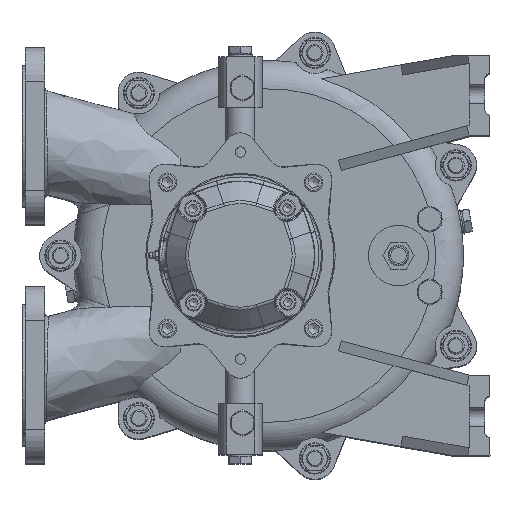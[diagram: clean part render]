
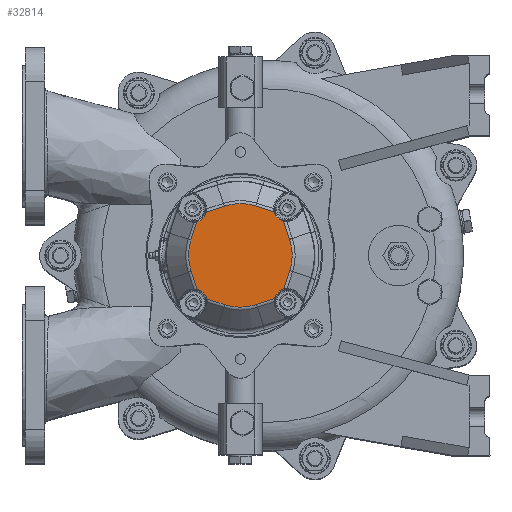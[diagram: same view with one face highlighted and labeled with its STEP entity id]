
A CAD part, top view. The second image highlights one B-rep face of the part: STEP entity #32814.
In plain terms, the highlighted planar face has unit normal (0, 0, 1).
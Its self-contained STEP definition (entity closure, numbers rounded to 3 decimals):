
#1115=PLANE('',#35854);
#2865=LINE('',#65464,#4766);
#2874=LINE('',#65503,#4775);
#2875=LINE('',#65515,#4776);
#2881=LINE('',#65544,#4782);
#2913=LINE('',#65654,#4814);
#2914=LINE('',#65656,#4815);
#2915=LINE('',#65659,#4816);
#2916=LINE('',#65662,#4817);
#4766=VECTOR('',#43046,10.);
#4775=VECTOR('',#43081,10.);
#4776=VECTOR('',#43092,10.);
#4782=VECTOR('',#43118,10.);
#4814=VECTOR('',#43198,10.);
#4815=VECTOR('',#43199,10.);
#4816=VECTOR('',#43202,10.);
#4817=VECTOR('',#43207,10.);
#7065=FACE_OUTER_BOUND('',#9059,.T.);
#9059=EDGE_LOOP('',(#27008,#27009,#27010,#27011,#27012,#27013,#27014,#27015,
#27016,#27017,#27018,#27019,#27020,#27021,#27022,#27023));
#10885=CIRCLE('',#35799,48.343);
#10889=CIRCLE('',#35806,48.343);
#10895=CIRCLE('',#35819,48.343);
#10900=CIRCLE('',#35829,48.343);
#10913=CIRCLE('',#35855,13.216);
#10914=CIRCLE('',#35856,13.216);
#10915=CIRCLE('',#35857,13.216);
#10916=CIRCLE('',#35858,13.216);
#14721=VERTEX_POINT('',#65416);
#14724=VERTEX_POINT('',#65421);
#14733=VERTEX_POINT('',#65457);
#14734=VERTEX_POINT('',#65463);
#14735=VERTEX_POINT('',#65467);
#14745=VERTEX_POINT('',#65496);
#14746=VERTEX_POINT('',#65502);
#14747=VERTEX_POINT('',#65506);
#14748=VERTEX_POINT('',#65510);
#14755=VERTEX_POINT('',#65533);
#14756=VERTEX_POINT('',#65535);
#14757=VERTEX_POINT('',#65539);
#14788=VERTEX_POINT('',#65651);
#14789=VERTEX_POINT('',#65652);
#14790=VERTEX_POINT('',#65655);
#14791=VERTEX_POINT('',#65657);
#18935=EDGE_CURVE('',#14724,#14721,#10885,.T.);
#18945=EDGE_CURVE('',#14733,#14734,#2865,.T.);
#18947=EDGE_CURVE('',#14734,#14735,#10889,.T.);
#18963=EDGE_CURVE('',#14745,#14746,#2874,.T.);
#18965=EDGE_CURVE('',#14746,#14747,#10895,.T.);
#18968=EDGE_CURVE('',#14747,#14748,#2875,.T.);
#18978=EDGE_CURVE('',#14755,#14756,#10900,.T.);
#18981=EDGE_CURVE('',#14756,#14757,#2881,.T.);
#19029=EDGE_CURVE('',#14788,#14789,#10913,.T.);
#19030=EDGE_CURVE('',#14721,#14788,#2913,.T.);
#19031=EDGE_CURVE('',#14790,#14724,#2914,.T.);
#19032=EDGE_CURVE('',#14791,#14790,#10914,.T.);
#19033=EDGE_CURVE('',#14735,#14791,#2915,.T.);
#19034=EDGE_CURVE('',#14748,#14733,#10915,.T.);
#19035=EDGE_CURVE('',#14757,#14745,#10916,.T.);
#19036=EDGE_CURVE('',#14789,#14755,#2916,.T.);
#27008=ORIENTED_EDGE('',*,*,#19029,.F.);
#27009=ORIENTED_EDGE('',*,*,#19030,.F.);
#27010=ORIENTED_EDGE('',*,*,#18935,.F.);
#27011=ORIENTED_EDGE('',*,*,#19031,.F.);
#27012=ORIENTED_EDGE('',*,*,#19032,.F.);
#27013=ORIENTED_EDGE('',*,*,#19033,.F.);
#27014=ORIENTED_EDGE('',*,*,#18947,.F.);
#27015=ORIENTED_EDGE('',*,*,#18945,.F.);
#27016=ORIENTED_EDGE('',*,*,#19034,.F.);
#27017=ORIENTED_EDGE('',*,*,#18968,.F.);
#27018=ORIENTED_EDGE('',*,*,#18965,.F.);
#27019=ORIENTED_EDGE('',*,*,#18963,.F.);
#27020=ORIENTED_EDGE('',*,*,#19035,.F.);
#27021=ORIENTED_EDGE('',*,*,#18981,.F.);
#27022=ORIENTED_EDGE('',*,*,#18978,.F.);
#27023=ORIENTED_EDGE('',*,*,#19036,.F.);
#32814=ADVANCED_FACE('',(#7065),#1115,.F.);
#35799=AXIS2_PLACEMENT_3D('',#65423,#43034,#43035);
#35806=AXIS2_PLACEMENT_3D('',#65468,#43051,#43052);
#35819=AXIS2_PLACEMENT_3D('',#65507,#43086,#43087);
#35829=AXIS2_PLACEMENT_3D('',#65536,#43112,#43113);
#35854=AXIS2_PLACEMENT_3D('',#65650,#43194,#43195);
#35855=AXIS2_PLACEMENT_3D('',#65653,#43196,#43197);
#35856=AXIS2_PLACEMENT_3D('',#65658,#43200,#43201);
#35857=AXIS2_PLACEMENT_3D('',#65660,#43203,#43204);
#35858=AXIS2_PLACEMENT_3D('',#65661,#43205,#43206);
#43034=DIRECTION('center_axis',(0.,0.,
-1.));
#43035=DIRECTION('ref_axis',(0.007,-1.,0.));
#43046=DIRECTION('',(0.319,-0.948,0.));
#43051=DIRECTION('center_axis',(0.,0.,
-1.));
#43052=DIRECTION('ref_axis',(1.,0.007,0.));
#43081=DIRECTION('',(0.948,0.319,0.));
#43086=DIRECTION('center_axis',(0.,0.,
-1.));
#43087=DIRECTION('ref_axis',(-0.007,1.,0.));
#43092=DIRECTION('',(0.952,-0.306,0.));
#43112=DIRECTION('center_axis',(0.,0.,
-1.));
#43113=DIRECTION('ref_axis',(-1.,-0.007,0.));
#43118=DIRECTION('',(0.306,0.952,0.));
#43194=DIRECTION('center_axis',(0.,0.,
-1.));
#43195=DIRECTION('ref_axis',(0.007,-1.,0.));
#43196=DIRECTION('center_axis',(0.,0.,
1.));
#43197=DIRECTION('ref_axis',(0.702,0.712,0.));
#43198=DIRECTION('',(-0.952,0.306,0.));
#43199=DIRECTION('',(-0.948,-0.319,0.));
#43200=DIRECTION('center_axis',(0.,0.,
1.));
#43201=DIRECTION('ref_axis',(-0.712,0.702,0.));
#43202=DIRECTION('',(-0.306,-0.952,0.));
#43203=DIRECTION('center_axis',(0.,0.,
1.));
#43204=DIRECTION('ref_axis',(-0.702,-0.712,0.));
#43205=DIRECTION('center_axis',(0.,0.,
1.));
#43206=DIRECTION('ref_axis',(0.712,-0.702,0.));
#43207=DIRECTION('',(-0.319,0.948,0.));
#65416=CARTESIAN_POINT('',(-41.767,-47.529,358.9));
#65421=CARTESIAN_POINT('',(-11.576,-47.32,358.9));
#65423=CARTESIAN_POINT('Origin',(-26.99,-1.5,358.9));
#65457=CARTESIAN_POINT('',(14.47,32.815,358.9));
#65463=CARTESIAN_POINT('',(20.32,15.424,358.9));
#65464=CARTESIAN_POINT('',(20.208,15.757,358.9));
#65467=CARTESIAN_POINT('',(20.529,-14.767,358.9));
#65468=CARTESIAN_POINT('Origin',(-25.5,0.01,358.9));
#65496=CARTESIAN_POINT('',(-59.815,41.47,358.9));
#65502=CARTESIAN_POINT('',(-42.424,47.32,358.9));
#65503=CARTESIAN_POINT('',(-42.757,47.208,358.9));
#65506=CARTESIAN_POINT('',(-12.233,47.529,358.9));
#65507=CARTESIAN_POINT('Origin',(-27.01,1.5,358.9));
#65510=CARTESIAN_POINT('',(5.238,41.92,358.9));
#65515=CARTESIAN_POINT('',(-4.219,44.956,358.9));
#65533=CARTESIAN_POINT('',(-74.32,-15.424,358.9));
#65535=CARTESIAN_POINT('',(-74.529,14.767,358.9));
#65536=CARTESIAN_POINT('Origin',(-28.5,-0.01,
358.9));
#65539=CARTESIAN_POINT('',(-68.92,32.238,358.9));
#65544=CARTESIAN_POINT('',(-71.956,22.781,358.9));
#65650=CARTESIAN_POINT('Origin',(-27.,0.,
358.9));
#65651=CARTESIAN_POINT('',(-59.238,-41.92,358.9));
#65652=CARTESIAN_POINT('',(-68.47,-32.815,358.9));
#65653=CARTESIAN_POINT('Origin',(-71.941,-45.567,358.9));
#65654=CARTESIAN_POINT('',(-49.781,-44.956,358.9));
#65655=CARTESIAN_POINT('',(5.815,-41.47,358.9));
#65656=CARTESIAN_POINT('',(-11.243,-47.208,358.9));
#65657=CARTESIAN_POINT('',(14.92,-32.238,358.9));
#65658=CARTESIAN_POINT('Origin',(18.567,-44.941,358.9));
#65659=CARTESIAN_POINT('',(17.956,-22.781,358.9));
#65660=CARTESIAN_POINT('Origin',(17.941,45.567,358.9));
#65661=CARTESIAN_POINT('Origin',(-72.567,44.941,358.9));
#65662=CARTESIAN_POINT('',(-74.208,-15.757,358.9));
